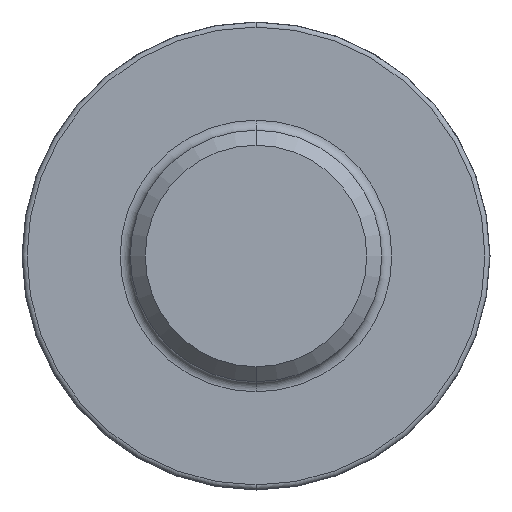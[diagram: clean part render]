
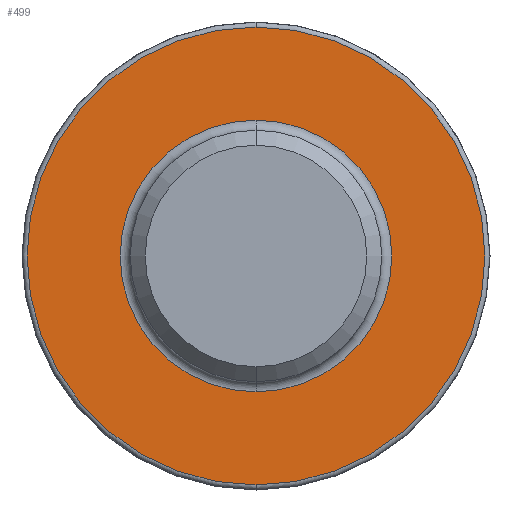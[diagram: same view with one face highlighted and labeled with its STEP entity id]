
A CAD part, front view. The second image highlights one B-rep face of the part: STEP entity #499.
In plain terms, the highlighted planar face has unit normal (0, -1, 0).
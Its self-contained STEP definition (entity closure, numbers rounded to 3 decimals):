
#7 = FACE_OUTER_BOUND ( 'NONE', #431, .T. ) ;
#46 = AXIS2_PLACEMENT_3D ( 'NONE', #170, #230, #564 ) ;
#80 = ORIENTED_EDGE ( 'NONE', *, *, #147, .T. ) ;
#109 = DIRECTION ( 'NONE',  ( 0., -1., 0. ) ) ;
#140 = DIRECTION ( 'NONE',  ( 0., 0., 1. ) ) ;
#142 = DIRECTION ( 'NONE',  ( 0., 0., 1. ) ) ;
#147 = EDGE_CURVE ( 'NONE', #289, #277, #827, .T. ) ;
#154 = EDGE_CURVE ( 'NONE', #421, #707, #381, .T. ) ;
#170 = CARTESIAN_POINT ( 'NONE',  ( 0., -2.7, 0. ) ) ;
#216 = ORIENTED_EDGE ( 'NONE', *, *, #304, .T. ) ;
#223 = AXIS2_PLACEMENT_3D ( 'NONE', #486, #288, #142 ) ;
#230 = DIRECTION ( 'NONE',  ( 0., 1., 0. ) ) ;
#260 = PLANE ( 'NONE',  #654 ) ;
#265 = FACE_BOUND ( 'NONE', #400, .T. ) ;
#266 = CARTESIAN_POINT ( 'NONE',  ( 0., -2.7, 0. ) ) ;
#277 = VERTEX_POINT ( 'NONE', #444 ) ;
#281 = CIRCLE ( 'NONE', #543, 4.55 ) ;
#288 = DIRECTION ( 'NONE',  ( 0., -1., 0. ) ) ;
#289 = VERTEX_POINT ( 'NONE', #692 ) ;
#304 = EDGE_CURVE ( 'NONE', #707, #421, #569, .T. ) ;
#337 = ORIENTED_EDGE ( 'NONE', *, *, #154, .T. ) ;
#339 = DIRECTION ( 'NONE',  ( 0., 1., 0. ) ) ;
#372 = DIRECTION ( 'NONE',  ( 0., 0., 1. ) ) ;
#381 = CIRCLE ( 'NONE', #687, 2.7 ) ;
#400 = EDGE_LOOP ( 'NONE', ( #216, #337 ) ) ;
#421 = VERTEX_POINT ( 'NONE', #464 ) ;
#431 = EDGE_LOOP ( 'NONE', ( #561, #80 ) ) ;
#444 = CARTESIAN_POINT ( 'NONE',  ( 0., -2.7, 4.55 ) ) ;
#464 = CARTESIAN_POINT ( 'NONE',  ( 0., -2.7, -2.7 ) ) ;
#486 = CARTESIAN_POINT ( 'NONE',  ( 0., -2.7, 0. ) ) ;
#499 = ADVANCED_FACE ( 'NONE', ( #265, #7 ), #260, .F. ) ;
#512 = CARTESIAN_POINT ( 'NONE',  ( 0., -2.7, 0. ) ) ;
#528 = CARTESIAN_POINT ( 'NONE',  ( 2.5, -2.7, 0. ) ) ;
#543 = AXIS2_PLACEMENT_3D ( 'NONE', #512, #109, #372 ) ;
#561 = ORIENTED_EDGE ( 'NONE', *, *, #788, .T. ) ;
#564 = DIRECTION ( 'NONE',  ( 0., 0., 1. ) ) ;
#569 = CIRCLE ( 'NONE', #46, 2.7 ) ;
#645 = CARTESIAN_POINT ( 'NONE',  ( 0., -2.7, 2.7 ) ) ;
#654 = AXIS2_PLACEMENT_3D ( 'NONE', #528, #799, #140 ) ;
#687 = AXIS2_PLACEMENT_3D ( 'NONE', #266, #339, #807 ) ;
#692 = CARTESIAN_POINT ( 'NONE',  ( 0., -2.7, -4.55 ) ) ;
#707 = VERTEX_POINT ( 'NONE', #645 ) ;
#788 = EDGE_CURVE ( 'NONE', #277, #289, #281, .T. ) ;
#799 = DIRECTION ( 'NONE',  ( 0., 1., 0. ) ) ;
#807 = DIRECTION ( 'NONE',  ( 0., 0., 1. ) ) ;
#827 = CIRCLE ( 'NONE', #223, 4.55 ) ;
